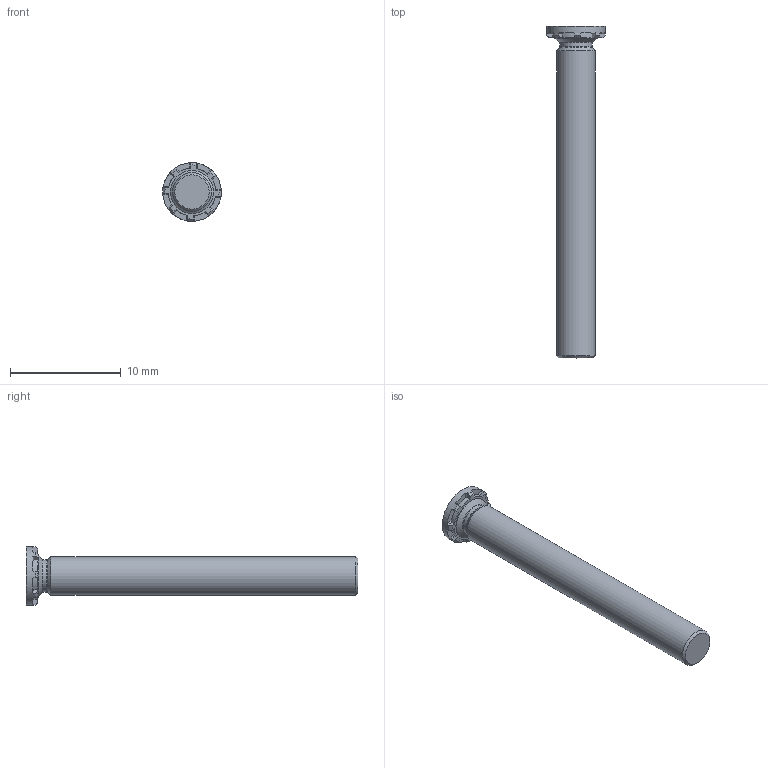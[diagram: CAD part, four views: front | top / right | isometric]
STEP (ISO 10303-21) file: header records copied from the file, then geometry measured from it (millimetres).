
FILE_DESCRIPTION(/* description */ (''),/* implementation_level */ '2;1');
FILE_NAME(/* name */ 'C:\Users\keval.kumar\Desktop\Fastit\Clinch Screw- FH Range\M3.5\Clinch Screw-FH Range_M3.5x30.stp',/* time_stamp */ '2024-03-12T11:54:39+05:00',/* author */ ('keval.kumar'),/* organization */ (''),/* preprocessor_version */ 'ST-DEVELOPER v18.1',/* originating_system */ 'Autodesk Inventor 2022',/* authorisation */ '');
FILE_SCHEMA (('AUTOMOTIVE_DESIGN { 1 0 10303 214 3 1 1 }'));
Length unit declared in the file: millimetre
Products named in the file (1): Clinch Screw-FH Range_M3.5x30
Bounding box: 5.3 x 30 x 5.3 mm (x, y, z)
Volume: 297 mm3; surface area: 379.8 mm2
Topology: 1 solids, 1 shells, 68 faces, 193 edges, 128 vertices
Faces by surface type: plane 43, cylinder 12, cone 11, torus 2
Full cylindrical faces by diameter (mm): 2.9 x1, 3.5 x1, 3.9 x1, 5.3 x1
Entity records: 2278 total; most frequent: CARTESIAN_POINT 422, DIRECTION 405, ORIENTED_EDGE 386, EDGE_CURVE 193, AXIS2_PLACEMENT_3D 159, VERTEX_POINT 128, LINE 87, VECTOR 87
